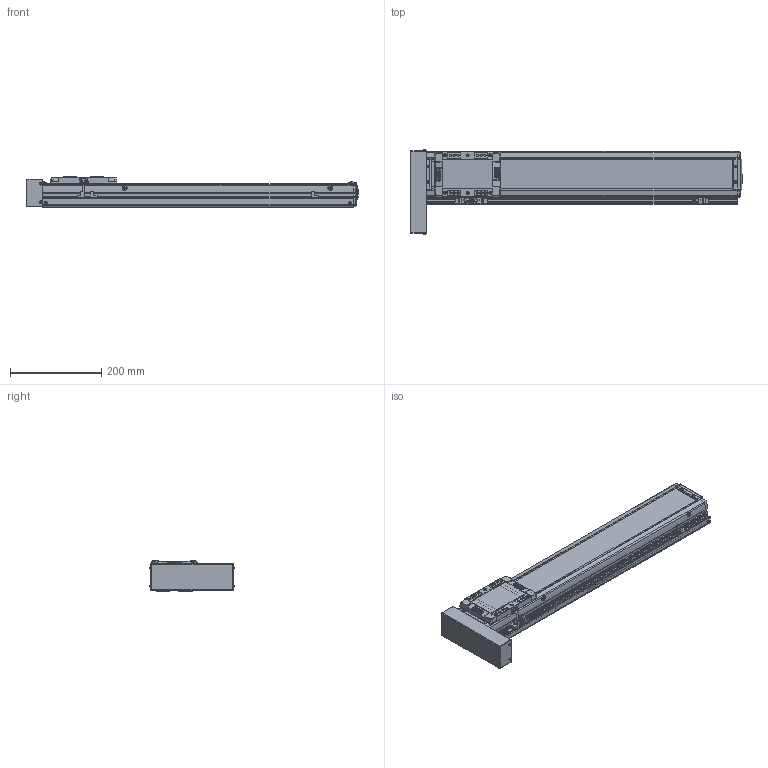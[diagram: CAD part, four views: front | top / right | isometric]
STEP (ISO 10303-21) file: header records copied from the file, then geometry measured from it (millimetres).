
FILE_DESCRIPTION(('STEP AP214'),'1');
FILE_NAME('Z:/Web/3D/SAN100/SAN100 양산용 (STEP)/SAN100ㅁㅁ-500PR+3SR.stp','2013-04-26T02:17:28',(' '),(' '),'Spatial InterOp 3D',' ',' ');
FILE_SCHEMA(('automotive_design'));
Length unit declared in the file: millimetre
Products named in the file (49): EE-SX674; SBK-SX674-352; 스크루 : Round - M3.0 x 6.0; M3.0 x 6.0; SRL-16x17-380L; SGD-SAN100; SUS COVER; SFX-SAN100; RRCV-SAN100; 스크루 : Round - M4.0 x 10.0; FRBL-SAN100; SLBL-SAN100; SLCV-SAN100; 스크루 : Countersunk - M3.0 x 6.0; BASE; 스크루 : Round - M5.0 x 6.0; BTCV-SAN65; BHCS M3 X 6L
Bounding box: 726.5 x 184.13 x 66 mm (x, y, z)
Volume: 2350869.6 mm3; surface area: 604932 mm2
Topology: 49 solids, 50 shells, 2389 faces, 6228 edges, 4031 vertices
Faces by surface type: plane 1284, cylinder 813, cone 194, sphere 64, torus 18, bspline 16
Entity records: 94200 total; most frequent: CARTESIAN_POINT 14039, DIRECTION 13095, ORIENTED_EDGE 12276, EDGE_CURVE 6138, AXIS2_PLACEMENT_3D 4628, VERTEX_POINT 4031, LINE 3839, VECTOR 3839
